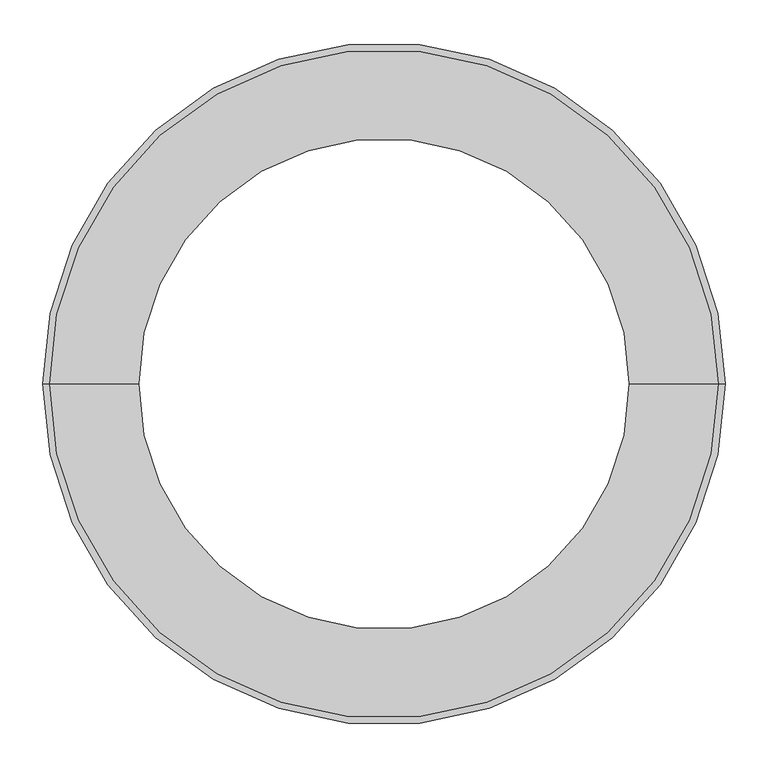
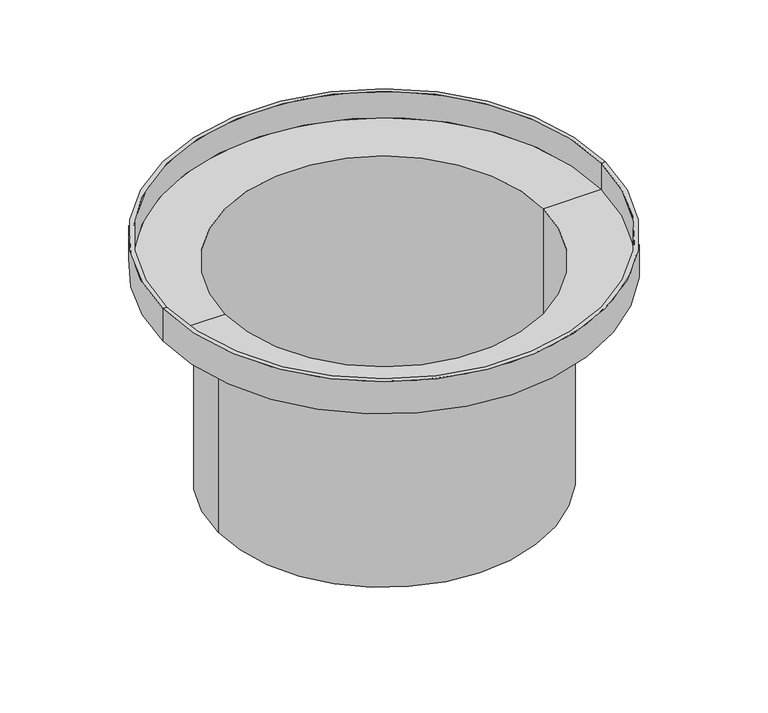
"""IFC4 building model written with IfcOpenShell, lengths in millimetres: pipe fitting geometry, Z_PIF_UN_Q-Bic_Plus_Telescopic_Adapter_Wavin_(nested) : Tegra600 Telescop.Adapter D."""

from ifc_helpers import new_model, si_unit, frame, origin, origin_with_axes, place, context, project, spatial, polyline, circle_curve, source, transform, mapped, element, save
from ifc_brep_helpers import plane_surface, cylinder_surface, revolved_surface, advanced_brep


def pipe_fitting_7e1303c6(model_context):
    return source(origin(), model_context, "Body", "AdvancedBrep", [
        advanced_brep(
        [(-391.5, 0.0, 0.0), (391.5, 0.0, 0.0), (399.0, 0.0, 0.0), (-399.0, 0.0, 0.0), (-391.5, 0.0, -50.0), (391.5, 0.0, -50.0), (-287.0, 0.0, -50.0), (287.0, 0.0, -50.0), (-287.0, 0.0, -462.0), (287.0, 0.0, -462.0), (-299.0, 0.0, -462.0), (299.0, 0.0, -462.0), (-299.0, 0.0, -62.0), (299.0, 0.0, -62.0), (-399.0, 0.0, -62.0), (399.0, 0.0, -62.0)],
        [
            (0, 1, circle_curve(frame((0.0, 0.0, 0.0), z_axis=(0.0, 0.0, -1.0), x_axis=(1.0, 0.0, 0.0)), 391.5)),
            (1, 2),
            (2, 3, circle_curve(origin_with_axes(), 399.0)),
            (3, 0),
            (1, 0, circle_curve(frame((0.0, 0.0, 0.0), z_axis=(0.0, 0.0, -1.0), x_axis=(1.0, 0.0, 0.0)), 391.5)),
            (3, 2, circle_curve(origin_with_axes(), 399.0)),
            (4, 5, circle_curve(frame((0.0, 0.0, -50.0), z_axis=(0.0, 0.0, -1.0), x_axis=(1.0, 0.0, 0.0)), 391.5)),
            (5, 1),
            (0, 4),
            (5, 4, circle_curve(frame((0.0, 0.0, -50.0), z_axis=(0.0, 0.0, -1.0), x_axis=(1.0, 0.0, 0.0)), 391.5)),
            (6, 7, circle_curve(frame((0.0, 0.0, -50.0), z_axis=(0.0, 0.0, -1.0), x_axis=(1.0, 0.0, 0.0)), 287.0)),
            (7, 5),
            (4, 6),
            (7, 6, circle_curve(frame((0.0, 0.0, -50.0), z_axis=(0.0, 0.0, -1.0), x_axis=(1.0, 0.0, 0.0)), 287.0)),
            (8, 9, circle_curve(frame((0.0, 0.0, -462.0), z_axis=(0.0, 0.0, -1.0), x_axis=(1.0, 0.0, 0.0)), 287.0)),
            (9, 7),
            (6, 8),
            (9, 8, circle_curve(frame((0.0, 0.0, -462.0), z_axis=(0.0, 0.0, -1.0), x_axis=(1.0, 0.0, 0.0)), 287.0)),
            (10, 11, circle_curve(frame((0.0, 0.0, -462.0), z_axis=(0.0, 0.0, -1.0), x_axis=(1.0, 0.0, 0.0)), 299.0)),
            (11, 9),
            (8, 10),
            (11, 10, circle_curve(frame((0.0, 0.0, -462.0), z_axis=(0.0, 0.0, -1.0), x_axis=(1.0, 0.0, 0.0)), 299.0)),
            (12, 13, circle_curve(frame((0.0, 0.0, -62.0), z_axis=(0.0, 0.0, -1.0), x_axis=(1.0, 0.0, 0.0)), 299.0)),
            (13, 11),
            (10, 12),
            (13, 12, circle_curve(frame((0.0, 0.0, -62.0), z_axis=(0.0, 0.0, -1.0), x_axis=(1.0, 0.0, 0.0)), 299.0)),
            (14, 15, circle_curve(frame((0.0, 0.0, -62.0), z_axis=(0.0, 0.0, -1.0), x_axis=(1.0, 0.0, 0.0)), 399.0)),
            (15, 13),
            (12, 14),
            (15, 14, circle_curve(frame((0.0, 0.0, -62.0), z_axis=(0.0, 0.0, -1.0), x_axis=(1.0, 0.0, 0.0)), 399.0)),
            (2, 15),
            (14, 3),
        ],
        [
            plane_surface(origin_with_axes()),
            revolved_surface(polyline([(391.5, 0.0, 0.0), (391.5, 0.0, -50.0)]), (0.0, 0.0, 50.0), (0.0, 0.0, 1.0)),
            plane_surface(frame((0.0, 0.0, -50.0), z_axis=(0.0, 0.0, 1.0), x_axis=(1.0, 0.0, 0.0))),
            revolved_surface(polyline([(287.0, 0.0, -50.0), (287.0, 0.0, -462.0)]), (0.0, 0.0, 50.0), (0.0, 0.0, 1.0)),
            plane_surface(frame((0.0, 0.0, -462.0), z_axis=(0.0, 0.0, -1.0), x_axis=(1.0, 0.0, 0.0))),
            cylinder_surface(frame((0.0, 0.0, 50.0), z_axis=(0.0, 0.0, 1.0), x_axis=(1.0, 0.0, 0.0)), 299.0),
            plane_surface(frame((0.0, 0.0, -62.0), z_axis=(0.0, 0.0, -1.0), x_axis=(1.0, 0.0, 0.0))),
            cylinder_surface(frame((0.0, 0.0, 50.0), z_axis=(0.0, 0.0, 1.0), x_axis=(1.0, 0.0, 0.0)), 399.0),
        ],
        [
            (0, [[1, 2, 3, 4]]),
            (0, [[5, -4, 6, -2]]),
            (1, [[7, 8, -1, 9]]),
            (1, [[10, -9, -5, -8]]),
            (2, [[11, 12, -7, 13]]),
            (2, [[14, -13, -10, -12]]),
            (3, [[15, 16, -11, 17]]),
            (3, [[18, -17, -14, -16]]),
            (4, [[19, 20, -15, 21]]),
            (4, [[22, -21, -18, -20]]),
            (5, [[23, 24, -19, 25]]),
            (5, [[26, -25, -22, -24]]),
            (6, [[27, 28, -23, 29]]),
            (6, [[30, -29, -26, -28]]),
            (7, [[-3, 31, -27, 32]]),
            (7, [[-6, -32, -30, -31]]),
        ],
    ),
    ])


if __name__ == "__main__":
    model = new_model("IFC4")
    model_context = context("Model", 3, world=origin())
    ifc_project = project(units=[si_unit("LENGTHUNIT", "METRE", prefix="MILLI")], contexts=[model_context])
    site = spatial("IfcSite", under=ifc_project)
    building = spatial("IfcBuilding", under=site)
    placement = place(None, origin())
    pipe_fitting_shape = pipe_fitting_7e1303c6(model_context)
    element("IfcPipeFitting", 1, ObjectType="Z_PIF_UN_Q-Bic_Plus_Telescopic_Adapter_Wavin_(nested) : Tegra600 Telescop.Adapter D", at=placement, inside=building, context=model_context, shape_type="MappedRepresentation", body=[
        mapped(pipe_fitting_shape, transform((0.0, 0.0, 0.0), x_axis=(1.0, 0.0, 0.0), y_axis=(0.0, 1.0, 0.0), z_axis=(0.0, 0.0, 1.0))),
    ])
    save(model, "model.ifc")
